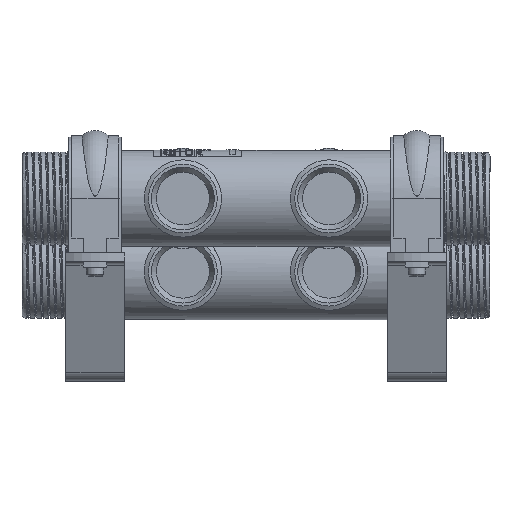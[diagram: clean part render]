
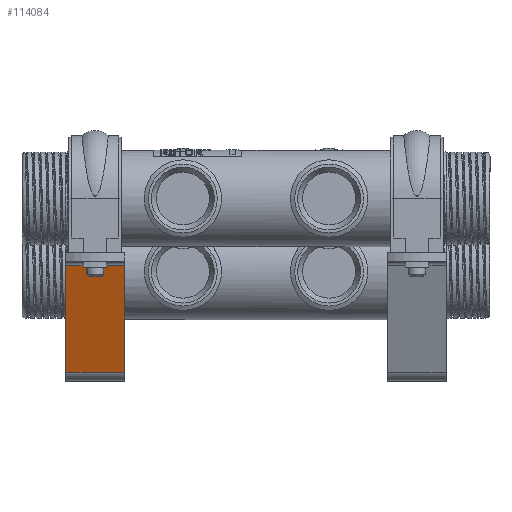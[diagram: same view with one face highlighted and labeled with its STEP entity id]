
A CAD part, front view. The second image highlights one B-rep face of the part: STEP entity #114084.
In plain terms, the highlighted planar face has unit normal (0, -0.928, -0.371).
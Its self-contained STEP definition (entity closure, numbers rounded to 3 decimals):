
#113834=CARTESIAN_POINT('',(-15.,-173.013,1.743));
#113835=VERTEX_POINT('',#113834);
#113844=CARTESIAN_POINT('',(-35.,-173.013,1.743));
#113845=VERTEX_POINT('',#113844);
#113853=CARTESIAN_POINT('',(-35.,-173.013,1.743));
#113854=DIRECTION('',(1.0,0.0,0.0));
#113855=VECTOR('',#113854,20.0);
#113856=LINE('',#113853,#113855);
#113857=EDGE_CURVE('',#113845,#113835,#113856,.T.);
#113973=CARTESIAN_POINT('',(-35.,-158.373,-34.857));
#113974=VERTEX_POINT('',#113973);
#113982=CARTESIAN_POINT('',(-35.,-173.013,1.743));
#113983=DIRECTION('',(0.,0.371,-0.928));
#113984=VECTOR('',#113983,39.419);
#113985=LINE('',#113982,#113984);
#113986=EDGE_CURVE('',#113845,#113974,#113985,.T.);
#114050=CARTESIAN_POINT('',(-15.,-158.373,-34.857));
#114051=VERTEX_POINT('',#114050);
#114059=CARTESIAN_POINT('',(-15.,-158.373,-34.857));
#114060=DIRECTION('',(-1.0,0.0,0.0));
#114061=VECTOR('',#114060,20.);
#114062=LINE('',#114059,#114061);
#114063=EDGE_CURVE('',#114051,#113974,#114062,.T.);
#114068=CARTESIAN_POINT('',(-15.,-173.516,3.));
#114069=DIRECTION('',(0.,-0.928,-0.371));
#114070=DIRECTION('',(1.0,0.0,0.0));
#114071=AXIS2_PLACEMENT_3D('',#114068,#114069,#114070);
#114072=PLANE('',#114071);
#114073=ORIENTED_EDGE('',*,*,#113857,.F.);
#114074=ORIENTED_EDGE('',*,*,#113986,.T.);
#114075=ORIENTED_EDGE('',*,*,#114063,.F.);
#114076=CARTESIAN_POINT('',(-15.,-173.013,1.743));
#114077=DIRECTION('',(0.,0.371,-0.928));
#114078=VECTOR('',#114077,39.419);
#114079=LINE('',#114076,#114078);
#114080=EDGE_CURVE('',#113835,#114051,#114079,.T.);
#114081=ORIENTED_EDGE('',*,*,#114080,.F.);
#114082=EDGE_LOOP('',(#114073,#114074,#114075,#114081));
#114083=FACE_OUTER_BOUND('',#114082,.T.);
#114084=ADVANCED_FACE('',(#114083),#114072,.T.);
